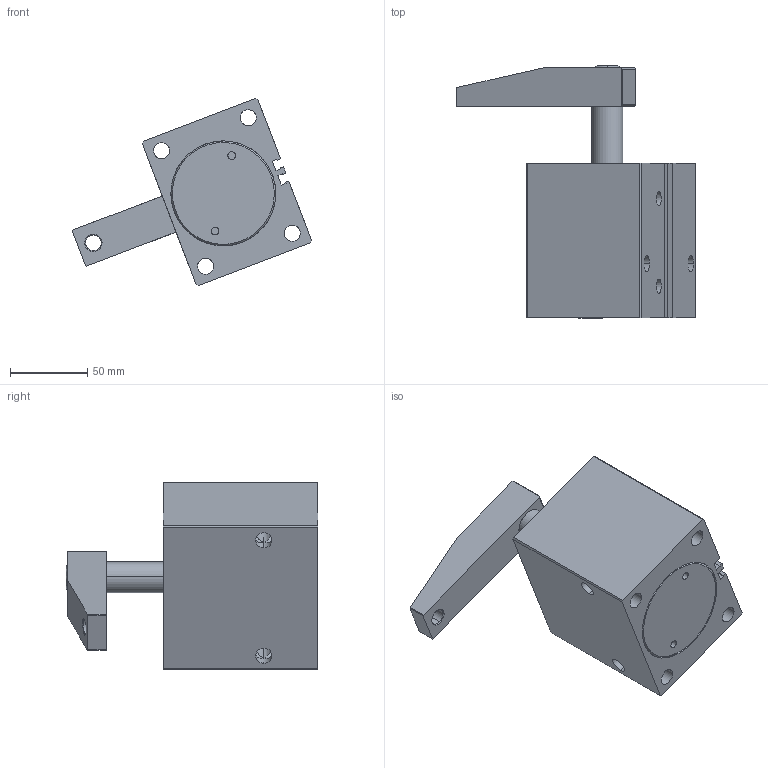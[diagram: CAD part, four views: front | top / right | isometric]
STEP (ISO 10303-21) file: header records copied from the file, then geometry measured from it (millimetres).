
FILE_DESCRIPTION (( 'STEP AP203' ), '1' );
FILE_NAME ('PSB-L6390-1515-00.STEP', '2013-04-08T08:29:32', ( '微软用户' ), ( '微软中国' ), 'SwSTEP 2.0', 'SolidWorks 2010', '' );
FILE_SCHEMA (( 'CONFIG_CONTROL_DESIGN' ));
Length unit declared in the file: millimetre
Products named in the file (11): PSB-L63-90-15-15-04; 4x40; PSB-L63-90-15-15-02; 詩紩4; PSB-L6390-1515-00; hexagon socket head cap screws gb_GB_FASTENER_SCREWS_HSHCS M10X20-N; PSB-L63-90-15-15-01; PSB-L63-90-15-15-05; s裝2; hex socket set screws with flat point gb_GB_FASTENER_SCREWS_HSFP M5X8-N; PSB-L63-90-15-15-03
Assembly tree (14 placements, depth 2):
  PSB-L6390-1515-00
    PSB-L63-90-15-15-01
    詩紩4  x3
    hex socket set screws with flat point gb_GB_FASTENER_SCREWS_HSFP M5X8-N  x3
    PSB-L63-90-15-15-04
    PSB-L63-90-15-15-02
    PSB-L63-90-15-15-05
    hexagon socket head cap screws gb_GB_FASTENER_SCREWS_HSHCS M10X20-N
    s裝2
    PSB-L63-90-15-15-03
    4x40
Bounding box: 154.88 x 163 x 121.21 mm (x, y, z)
Volume: 690068 mm3; surface area: 149378.9 mm2
Topology: 14 solids, 14 shells, 463 faces, 1116 edges, 680 vertices
Faces by surface type: cylinder 160, plane 145, bspline 100, cone 58
Entity records: 18711 total; most frequent: CARTESIAN_POINT 8268, ORIENTED_EDGE 1958, DIRECTION 1861, EDGE_CURVE 979, AXIS2_PLACEMENT_3D 748, VERTEX_POINT 614, EDGE_LOOP 495, ADVANCED_FACE 415
